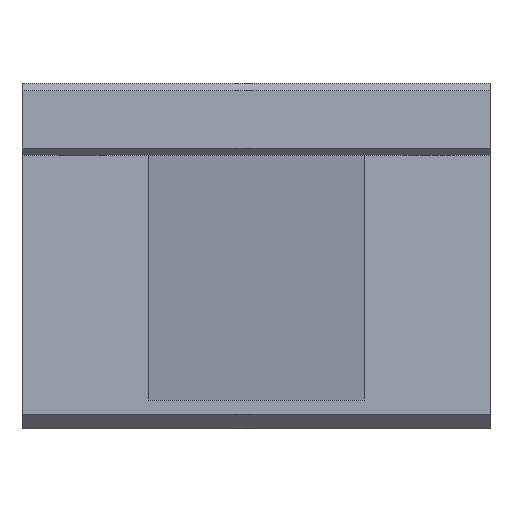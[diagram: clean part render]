
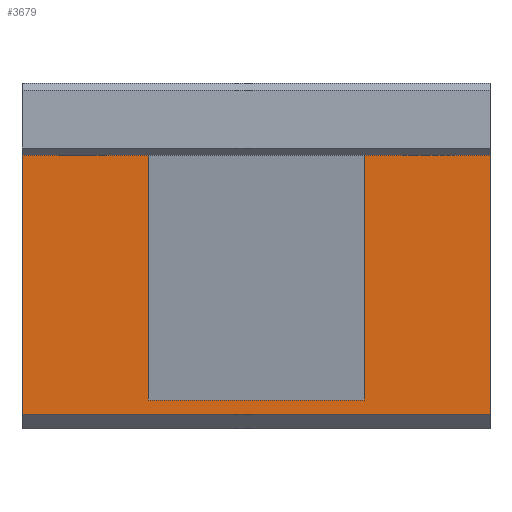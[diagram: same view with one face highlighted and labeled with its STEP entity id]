
A CAD part, front view. The second image highlights one B-rep face of the part: STEP entity #3679.
In plain terms, the highlighted planar face has unit normal (0, -1, 0).
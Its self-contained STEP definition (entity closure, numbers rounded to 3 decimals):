
#2459=CARTESIAN_POINT('',(0.0,-27.,-18.));
#2460=VERTEX_POINT('',#2459);
#2467=CARTESIAN_POINT('',(0.0,-27.,18.));
#2468=VERTEX_POINT('',#2467);
#2469=CARTESIAN_POINT('',(0.0,-27.,18.));
#2470=DIRECTION('',(0.0,0.0,-1.0));
#2471=VECTOR('',#2470,36.);
#2472=LINE('',#2469,#2471);
#2473=EDGE_CURVE('',#2468,#2460,#2472,.T.);
#2514=CARTESIAN_POINT('',(47.5,-27.,18.));
#2515=VERTEX_POINT('',#2514);
#2522=CARTESIAN_POINT('',(65.0,-27.,18.));
#2523=VERTEX_POINT('',#2522);
#2524=CARTESIAN_POINT('',(47.5,-27.,18.));
#2525=DIRECTION('',(1.0,0.0,0.0));
#2526=VECTOR('',#2525,17.5);
#2527=LINE('',#2524,#2526);
#2528=EDGE_CURVE('',#2515,#2523,#2527,.T.);
#2557=CARTESIAN_POINT('',(65.0,-27.,-18.));
#2558=VERTEX_POINT('',#2557);
#2559=CARTESIAN_POINT('',(65.0,-27.,-18.));
#2560=DIRECTION('',(0.0,0.0,1.0));
#2561=VECTOR('',#2560,36.);
#2562=LINE('',#2559,#2561);
#2563=EDGE_CURVE('',#2558,#2523,#2562,.T.);
#3170=CARTESIAN_POINT('',(65.0,-27.,-18.));
#3171=DIRECTION('',(-1.0,0.0,0.0));
#3172=VECTOR('',#3171,65.0);
#3173=LINE('',#3170,#3172);
#3174=EDGE_CURVE('',#2558,#2460,#3173,.T.);
#3380=CARTESIAN_POINT('',(17.5,-27.,18.));
#3381=VERTEX_POINT('',#3380);
#3388=CARTESIAN_POINT('',(17.5,-27.,-16.));
#3389=VERTEX_POINT('',#3388);
#3390=CARTESIAN_POINT('',(17.5,-27.,-16.));
#3391=DIRECTION('',(0.0,0.0,1.0));
#3392=VECTOR('',#3391,34.);
#3393=LINE('',#3390,#3392);
#3394=EDGE_CURVE('',#3389,#3381,#3393,.T.);
#3410=CARTESIAN_POINT('',(47.5,-27.,-16.));
#3411=VERTEX_POINT('',#3410);
#3427=CARTESIAN_POINT('',(47.5,-27.,-16.));
#3428=DIRECTION('',(-1.0,0.0,0.0));
#3429=VECTOR('',#3428,30.0);
#3430=LINE('',#3427,#3429);
#3431=EDGE_CURVE('',#3411,#3389,#3430,.T.);
#3458=CARTESIAN_POINT('',(47.5,-27.,18.));
#3459=DIRECTION('',(0.0,0.0,-1.0));
#3460=VECTOR('',#3459,34.);
#3461=LINE('',#3458,#3460);
#3462=EDGE_CURVE('',#2515,#3411,#3461,.T.);
#3659=CARTESIAN_POINT('',(0.0,-27.,-20.));
#3660=DIRECTION('',(0.0,-1.0,0.0));
#3661=DIRECTION('',(0.0,0.0,-1.0));
#3662=AXIS2_PLACEMENT_3D('',#3659,#3660,#3661);
#3663=PLANE('',#3662);
#3664=ORIENTED_EDGE('',*,*,#3174,.F.);
#3665=ORIENTED_EDGE('',*,*,#2563,.T.);
#3666=ORIENTED_EDGE('',*,*,#2528,.F.);
#3667=ORIENTED_EDGE('',*,*,#3462,.T.);
#3668=ORIENTED_EDGE('',*,*,#3431,.T.);
#3669=ORIENTED_EDGE('',*,*,#3394,.T.);
#3670=CARTESIAN_POINT('',(0.0,-27.,18.));
#3671=DIRECTION('',(1.0,0.0,0.0));
#3672=VECTOR('',#3671,17.5);
#3673=LINE('',#3670,#3672);
#3674=EDGE_CURVE('',#2468,#3381,#3673,.T.);
#3675=ORIENTED_EDGE('',*,*,#3674,.F.);
#3676=ORIENTED_EDGE('',*,*,#2473,.T.);
#3677=EDGE_LOOP('',(#3664,#3665,#3666,#3667,#3668,#3669,#3675,#3676));
#3678=FACE_OUTER_BOUND('',#3677,.T.);
#3679=ADVANCED_FACE('',(#3678),#3663,.T.);
